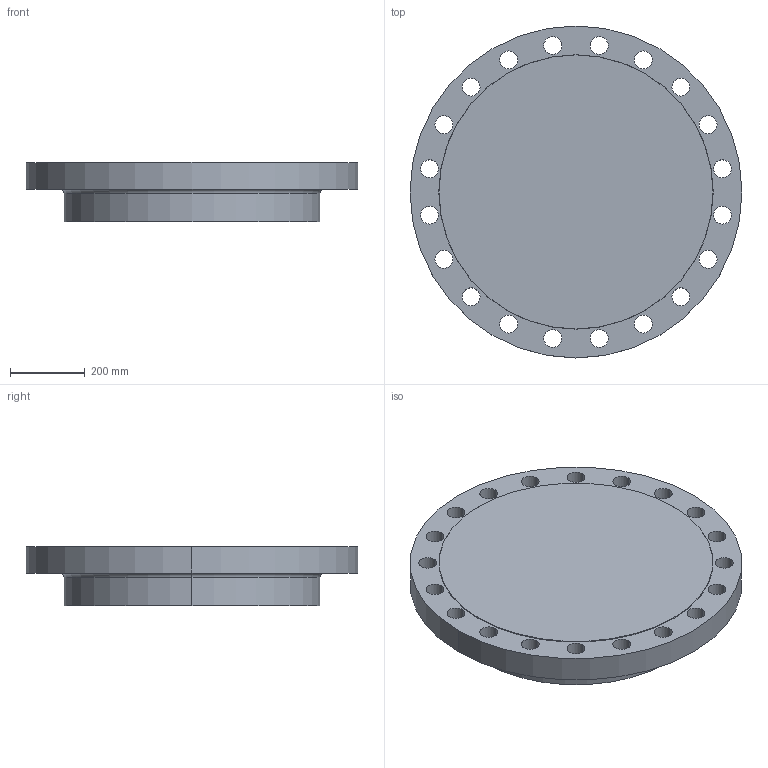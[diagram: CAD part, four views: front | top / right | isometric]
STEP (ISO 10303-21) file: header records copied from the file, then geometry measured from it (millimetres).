
FILE_DESCRIPTION (( 'STEP AP214' ), '1' );
FILE_NAME ('PN40 DN600 Type 21(i) - Type B Face.STEP', '2018-12-29T04:41:13', ( '' ), ( '' ), 'SwSTEP 2.0', 'SolidWorks 2019', '' );
FILE_SCHEMA (( 'AUTOMOTIVE_DESIGN' ));
Length unit declared in the file: millimetre
Products named in the file (1): PN40 DN600 Type 21(i) - Type B Face
Bounding box: 890 x 890 x 160 mm (x, y, z)
Volume: 74456370 mm3; surface area: 1761174.5 mm2
Topology: 1 solids, 1 shells, 52 faces, 142 edges, 94 vertices
Faces by surface type: cylinder 44, plane 4, torus 2, cone 2
Entity records: 1820 total; most frequent: DIRECTION 344, CARTESIAN_POINT 289, ORIENTED_EDGE 284, AXIS2_PLACEMENT_3D 149, EDGE_CURVE 142, CIRCLE 96, VERTEX_POINT 94, EDGE_LOOP 94
